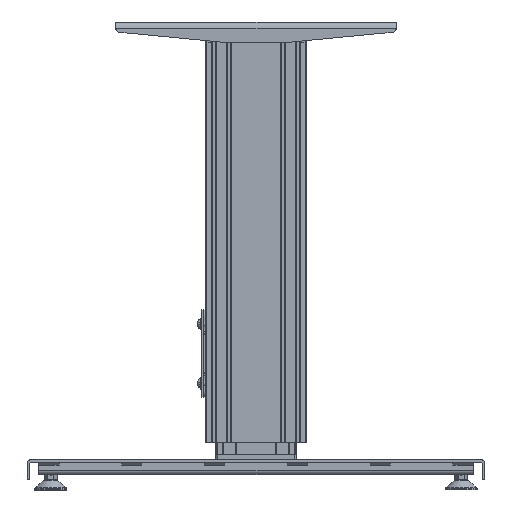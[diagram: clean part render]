
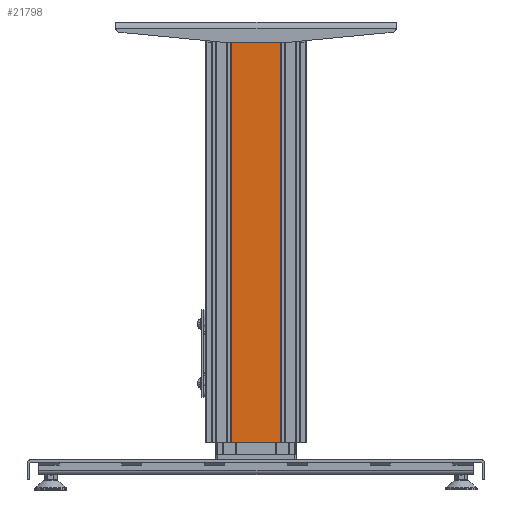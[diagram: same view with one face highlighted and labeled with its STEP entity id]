
A CAD part, front view. The second image highlights one B-rep face of the part: STEP entity #21798.
In plain terms, the highlighted planar face has unit normal (0, -1, 0) as drawn and (0, 0, -1) by its records, which use the part's own axes.
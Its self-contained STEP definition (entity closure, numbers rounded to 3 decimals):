
#1239=CIRCLE('',#29379,4.5);
#4923=ORIENTED_EDGE('',*,*,#9821,.T.);
#4924=ORIENTED_EDGE('',*,*,#9822,.T.);
#4925=ORIENTED_EDGE('',*,*,#9823,.T.);
#4926=ORIENTED_EDGE('',*,*,#9824,.T.);
#4927=ORIENTED_EDGE('',*,*,#9825,.T.);
#4928=ORIENTED_EDGE('',*,*,#9826,.F.);
#4929=ORIENTED_EDGE('',*,*,#9827,.F.);
#4930=ORIENTED_EDGE('',*,*,#9828,.T.);
#9821=EDGE_CURVE('',#12497,#12498,#14540,.T.);
#9822=EDGE_CURVE('',#12498,#12499,#14541,.T.);
#9823=EDGE_CURVE('',#12499,#12500,#1239,.T.);
#9824=EDGE_CURVE('',#12500,#12501,#14542,.T.);
#9825=EDGE_CURVE('',#12501,#12502,#14543,.T.);
#9826=EDGE_CURVE('',#12503,#12502,#14544,.T.);
#9827=EDGE_CURVE('',#12504,#12503,#14545,.T.);
#9828=EDGE_CURVE('',#12504,#12497,#14546,.T.);
#12497=VERTEX_POINT('',#41808);
#12498=VERTEX_POINT('',#41809);
#12499=VERTEX_POINT('',#41811);
#12500=VERTEX_POINT('',#41813);
#12501=VERTEX_POINT('',#41815);
#12502=VERTEX_POINT('',#41817);
#12503=VERTEX_POINT('',#41819);
#12504=VERTEX_POINT('',#41821);
#14540=LINE('',#41807,#16405);
#14541=LINE('',#41810,#16406);
#14542=LINE('',#41814,#16407);
#14543=LINE('',#41816,#16408);
#14544=LINE('',#41818,#16409);
#14545=LINE('',#41820,#16410);
#14546=LINE('',#41822,#16411);
#16405=VECTOR('',#33412,1000.);
#16406=VECTOR('',#33413,1000.);
#16407=VECTOR('',#33416,1000.);
#16408=VECTOR('',#33417,1000.);
#16409=VECTOR('',#33418,1000.);
#16410=VECTOR('',#33419,1000.);
#16411=VECTOR('',#33420,1000.);
#18058=EDGE_LOOP('',(#4923,#4924,#4925,#4926,#4927,#4928,#4929,#4930));
#19641=FACE_BOUND('',#18058,.T.);
#20907=PLANE('',#29378);
#21798=ADVANCED_FACE('',(#19641),#20907,.F.);
#29378=AXIS2_PLACEMENT_3D('',#41806,#33410,#33411);
#29379=AXIS2_PLACEMENT_3D('',#41812,#33414,#33415);
#33410=DIRECTION('',(0.,0.,1.));
#33411=DIRECTION('',(1.,0.,0.));
#33412=DIRECTION('',(-1.,0.,0.));
#33413=DIRECTION('',(0.,1.,0.));
#33414=DIRECTION('',(0.,0.,1.));
#33415=DIRECTION('',(0.,-1.,0.));
#33416=DIRECTION('',(0.,-1.,0.));
#33417=DIRECTION('',(-1.,0.,0.));
#33418=DIRECTION('',(0.,-1.,0.));
#33419=DIRECTION('',(-1.,0.,0.));
#33420=DIRECTION('',(0.,-1.,0.));
#41806=CARTESIAN_POINT('',(0.,1000.,0.5));
#41807=CARTESIAN_POINT('',(0.,0.,0.5));
#41808=CARTESIAN_POINT('',(37.,0.,0.5));
#41809=CARTESIAN_POINT('',(4.5,0.,0.5));
#41810=CARTESIAN_POINT('',(4.5,7.5,0.5));
#41811=CARTESIAN_POINT('',(4.5,7.5,0.5));
#41812=CARTESIAN_POINT('',(0.,7.5,0.5));
#41813=CARTESIAN_POINT('',(-4.5,7.5,0.5));
#41814=CARTESIAN_POINT('',(-4.5,0.,0.5));
#41815=CARTESIAN_POINT('',(-4.5,0.,0.5));
#41816=CARTESIAN_POINT('',(0.,0.,0.5));
#41817=CARTESIAN_POINT('',(-37.,0.,0.5));
#41818=CARTESIAN_POINT('',(-37.,1000.,0.5));
#41819=CARTESIAN_POINT('',(-37.,612.,0.5));
#41820=CARTESIAN_POINT('',(0.,612.,0.5));
#41821=CARTESIAN_POINT('',(37.,612.,0.5));
#41822=CARTESIAN_POINT('',(37.,1000.,0.5));
